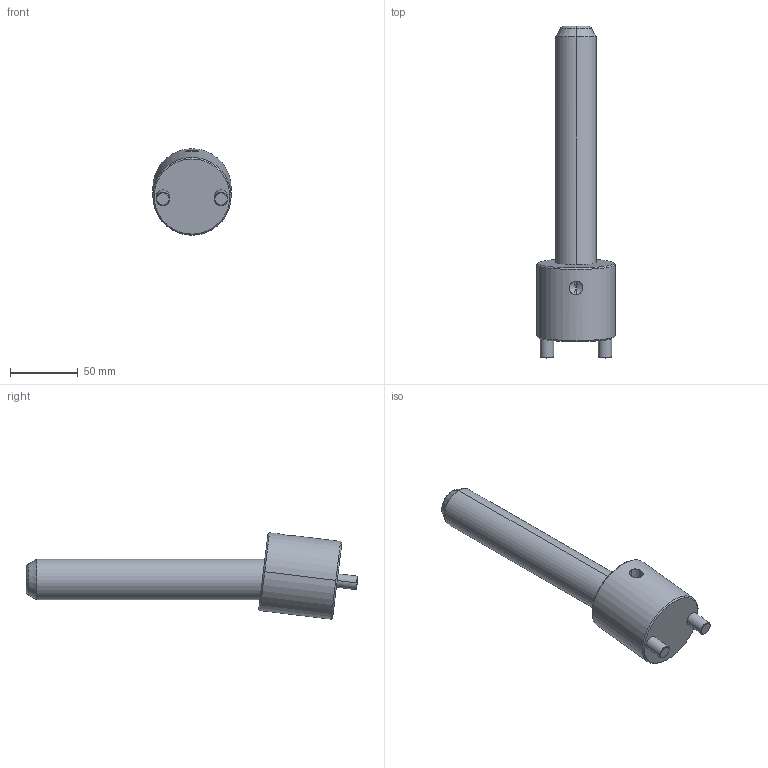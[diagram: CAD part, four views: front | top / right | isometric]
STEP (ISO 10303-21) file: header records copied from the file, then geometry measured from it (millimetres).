
FILE_DESCRIPTION(('CATIA V5 STEP Exchange'),'2;1');
FILE_NAME('C:\Users\Raffaele\Desktop\3D BOLEX\3D FILES CF BOLEX\19-INCLINED ASSEMBLY REF_CI\CI0730175.stp','2019-06-24T07:34:42+00:00',('none'),('none'),'CATIA Version 5 Release 20 GA (IN-10)','CATIA V5 STEP AP203','none');
FILE_SCHEMA(('CONFIG_CONTROL_DESIGN'));
Length unit declared in the file: millimetre
Products named in the file (1): CI0730175
Assembly tree (2 placements, depth 2):
  CI0730175
    #58
    #590
Bounding box: 58 x 245.76 x 64.03 mm (x, y, z)
Volume: 267250.1 mm3; surface area: 42650.9 mm2
Topology: 2 solids, 2 shells, 39 faces, 82 edges, 47 vertices
Faces by surface type: cone 14, cylinder 14, plane 7, torus 4
Entity records: 1545 total; most frequent: CARTESIAN_POINT 684, ORIENTED_EDGE 160, DIRECTION 146, EDGE_CURVE 80, AXIS2_PLACEMENT_3D 73, VERTEX_POINT 47, EDGE_LOOP 43, ADVANCED_FACE 39
